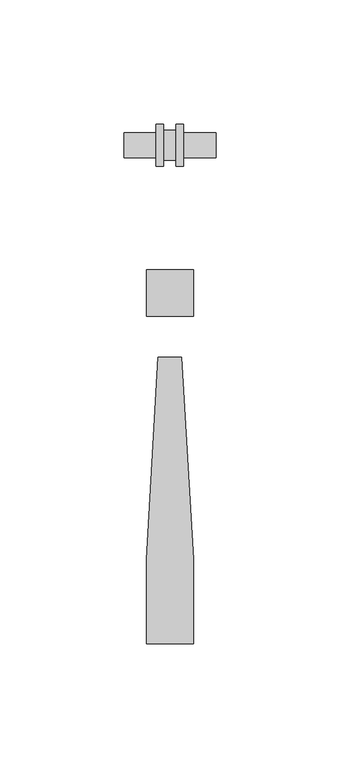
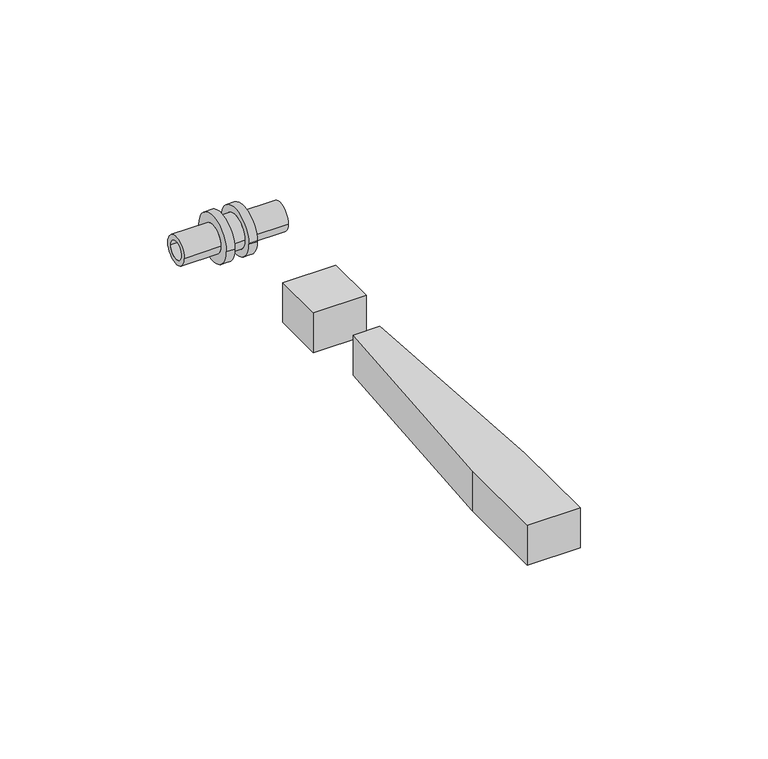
"""IFC4 building model written with IfcOpenShell, lengths in millimetres: pipe fitting geometry, RAUTITAN_Union_LX : RTI LX U DN."""

from ifc_helpers import new_model, si_unit, frame, origin, origin_with_axes, place, context, project, spatial, polyline, circle_curve, outline, extrude, source, transform, mapped, element, save
from ifc_brep_helpers import plane_surface, cylinder_surface, revolved_surface, advanced_brep


def pipe_fitting_a0515556(model_context):
    return source(origin(), model_context, "Body", "SolidModel", [
        advanced_brep(
        [(-18.5, 3.3, 0.0), (-18.5, -3.3, 0.0), (18.5, -3.3, 0.0), (18.5, 3.3, 0.0), (-5.5, 5.1, 0.0), (-5.5, -5.1, 0.0), (-18.5, -5.1, 0.0), (-18.5, 5.1, 0.0), (-2.5, 8.5, 0.0), (-2.5, -8.5, 0.0), (-5.5, -8.5, 0.0), (-5.5, 8.5, 0.0), (2.5, 6.0, 0.0), (2.5, -6.0, 0.0), (-2.5, -6.0, 0.0), (-2.5, 6.0, 0.0), (5.5, 8.5, 0.0), (5.5, -8.5, 0.0), (2.5, -8.5, 0.0), (2.5, 8.5, 0.0), (18.5, 5.1, 0.0), (18.5, -5.1, 0.0), (5.5, -5.1, 0.0), (5.5, 5.1, 0.0)],
        [
            (0, 1, circle_curve(frame((-18.5, 0.0, 0.0), z_axis=(-1.0, 0.0, 0.0), x_axis=(0.0, -1.0, 0.0)), 3.3)),
            (1, 2),
            (2, 3, circle_curve(frame((18.5, 0.0, 0.0), z_axis=(1.0, 0.0, 0.0), x_axis=(0.0, -1.0, 0.0)), 3.3)),
            (3, 0),
            (4, 5, circle_curve(frame((-5.5, 0.0, 0.0), z_axis=(-1.0, 0.0, 0.0), x_axis=(0.0, -1.0, 0.0)), 5.1)),
            (5, 6),
            (6, 7, circle_curve(frame((-18.5, 0.0, 0.0), z_axis=(1.0, 0.0, 0.0), x_axis=(0.0, -1.0, 0.0)), 5.1)),
            (7, 4),
            (8, 9, circle_curve(frame((-2.5, 0.0, 0.0), z_axis=(-1.0, 0.0, 0.0), x_axis=(0.0, -1.0, 0.0)), 8.5)),
            (9, 10),
            (10, 11, circle_curve(frame((-5.5, 0.0, 0.0), z_axis=(1.0, 0.0, 0.0), x_axis=(0.0, -1.0, 0.0)), 8.5)),
            (11, 8),
            (12, 13, circle_curve(frame((2.5, 0.0, 0.0), z_axis=(-1.0, 0.0, 0.0), x_axis=(0.0, -1.0, 0.0)), 6.0)),
            (13, 14),
            (14, 15, circle_curve(frame((-2.5, 0.0, 0.0), z_axis=(1.0, 0.0, 0.0), x_axis=(0.0, -1.0, 0.0)), 6.0)),
            (15, 12),
            (16, 17, circle_curve(frame((5.5, 0.0, 0.0), z_axis=(-1.0, 0.0, 0.0), x_axis=(0.0, -1.0, 0.0)), 8.5)),
            (17, 18),
            (18, 19, circle_curve(frame((2.5, 0.0, 0.0), z_axis=(1.0, 0.0, 0.0), x_axis=(0.0, -1.0, 0.0)), 8.5)),
            (19, 16),
            (20, 21, circle_curve(frame((18.5, 0.0, 0.0), z_axis=(-1.0, 0.0, 0.0), x_axis=(0.0, -1.0, 0.0)), 5.1)),
            (21, 22),
            (22, 23, circle_curve(frame((5.5, 0.0, 0.0), z_axis=(1.0, 0.0, 0.0), x_axis=(0.0, -1.0, 0.0)), 5.1)),
            (23, 20),
            (1, 0, circle_curve(frame((-18.5, 0.0, 0.0), z_axis=(-1.0, 0.0, 0.0), x_axis=(0.0, 1.0, 0.0)), 3.3)),
            (3, 2, circle_curve(frame((18.5, 0.0, 0.0), z_axis=(1.0, 0.0, 0.0), x_axis=(0.0, 1.0, 0.0)), 3.3)),
            (6, 7, circle_curve(frame((-18.5, 0.0, 0.0), z_axis=(-1.0, 0.0, 0.0), x_axis=(0.0, 1.0, 0.0)), 5.1)),
            (5, 4, circle_curve(frame((-5.5, 0.0, 0.0), z_axis=(-1.0, 0.0, 0.0), x_axis=(0.0, 1.0, 0.0)), 5.1)),
            (10, 11, circle_curve(frame((-5.5, 0.0, 0.0), z_axis=(-1.0, 0.0, 0.0), x_axis=(0.0, 1.0, 0.0)), 8.5)),
            (9, 8, circle_curve(frame((-2.5, 0.0, 0.0), z_axis=(-1.0, 0.0, 0.0), x_axis=(0.0, 1.0, 0.0)), 8.5)),
            (14, 15, circle_curve(frame((-2.5, 0.0, 0.0), z_axis=(-1.0, 0.0, 0.0), x_axis=(0.0, 1.0, 0.0)), 6.0)),
            (13, 12, circle_curve(frame((2.5, 0.0, 0.0), z_axis=(-1.0, 0.0, 0.0), x_axis=(0.0, 1.0, 0.0)), 6.0)),
            (18, 19, circle_curve(frame((2.5, 0.0, 0.0), z_axis=(-1.0, 0.0, 0.0), x_axis=(0.0, 1.0, 0.0)), 8.5)),
            (17, 16, circle_curve(frame((5.5, 0.0, 0.0), z_axis=(-1.0, 0.0, 0.0), x_axis=(0.0, 1.0, 0.0)), 8.5)),
            (22, 23, circle_curve(frame((5.5, 0.0, 0.0), z_axis=(-1.0, 0.0, 0.0), x_axis=(0.0, 1.0, 0.0)), 5.1)),
            (21, 20, circle_curve(frame((18.5, 0.0, 0.0), z_axis=(-1.0, 0.0, 0.0), x_axis=(0.0, 1.0, 0.0)), 5.1)),
        ],
        [
            revolved_surface(polyline([(18.5, -3.3, 0.0), (-18.5, -3.3, 0.0)]), (0.0, 0.0, 0.0), (1.0, 0.0, 0.0)),
            cylinder_surface(frame((0.0, 0.0, 0.0), z_axis=(1.0, 0.0, 0.0), x_axis=(0.0, -1.0, 0.0)), 5.1),
            cylinder_surface(frame((0.0, 0.0, 0.0), z_axis=(1.0, 0.0, 0.0), x_axis=(0.0, -1.0, 0.0)), 8.5),
            cylinder_surface(frame((0.0, 0.0, 0.0), z_axis=(1.0, 0.0, 0.0), x_axis=(0.0, -1.0, 0.0)), 6.0),
            revolved_surface(polyline([(18.5, 3.3, 0.0), (-18.5, 3.3, 0.0)]), (0.0, 0.0, 0.0), (1.0, 0.0, 0.0)),
            plane_surface(frame((-18.5, 0.0, 0.0), z_axis=(-1.0, 0.0, 0.0), x_axis=(0.0, 1.0, 0.0))),
            cylinder_surface(frame((0.0, 0.0, 0.0), z_axis=(1.0, 0.0, 0.0), x_axis=(0.0, 1.0, 0.0)), 5.1),
            plane_surface(frame((-5.5, 0.0, 0.0), z_axis=(-1.0, 0.0, 0.0), x_axis=(0.0, 1.0, 0.0))),
            cylinder_surface(frame((0.0, 0.0, 0.0), z_axis=(1.0, 0.0, 0.0), x_axis=(0.0, 1.0, 0.0)), 8.5),
            plane_surface(frame((-2.5, 0.0, 0.0), z_axis=(1.0, 0.0, 0.0), x_axis=(0.0, 1.0, 0.0))),
            cylinder_surface(frame((0.0, 0.0, 0.0), z_axis=(1.0, 0.0, 0.0), x_axis=(0.0, 1.0, 0.0)), 6.0),
            plane_surface(frame((2.5, 0.0, 0.0), z_axis=(-1.0, 0.0, 0.0), x_axis=(0.0, 1.0, 0.0))),
            plane_surface(frame((5.5, 0.0, 0.0), z_axis=(1.0, 0.0, 0.0), x_axis=(0.0, 1.0, 0.0))),
            plane_surface(frame((18.5, 0.0, 0.0), z_axis=(1.0, 0.0, 0.0), x_axis=(0.0, 1.0, 0.0))),
        ],
        [
            (0, [[1, 2, 3, 4]]),
            (1, [[5, 6, 7, 8]]),
            (2, [[9, 10, 11, 12]]),
            (3, [[13, 14, 15, 16]]),
            (2, [[17, 18, 19, 20]]),
            (1, [[21, 22, 23, 24]]),
            (4, [[25, -4, 26, -2]]),
            (5, [[27, -7], [-25, -1]]),
            (6, [[28, -8, -27, -6]]),
            (7, [[29, -11], [-28, -5]]),
            (8, [[30, -12, -29, -10]]),
            (9, [[-30, -9], [31, -15]]),
            (10, [[32, -16, -31, -14]]),
            (11, [[33, -19], [-32, -13]]),
            (8, [[34, -20, -33, -18]]),
            (12, [[-34, -17], [35, -23]]),
            (6, [[36, -24, -35, -22]]),
            (13, [[-36, -21], [-26, -3]]),
        ],
    ),
        extrude(outline(polyline([(4.7088895, -85.3166715), (9.4177791, -166.6553807), (9.4177791, -200.6844652), (-9.4177791, -200.6844652), (-9.4177791, -166.6553807), (-4.7088895, -85.3166715), (4.7088895, -85.3166715)])), origin_with_axes(), (0.0, 0.0, 1.0), 15.0),
        extrude(outline(polyline([(9.4177791, -50.0), (9.4177791, -68.8355582), (-9.4177791, -68.8355582), (-9.4177791, -50.0), (9.4177791, -50.0)])), origin_with_axes(), (0.0, 0.0, 1.0), 15.0),
    ])


if __name__ == "__main__":
    model = new_model("IFC4")
    model_context = context("Model", 3, world=origin())
    ifc_project = project(units=[si_unit("LENGTHUNIT", "METRE", prefix="MILLI")], contexts=[model_context])
    site = spatial("IfcSite", under=ifc_project)
    building = spatial("IfcBuilding", under=site)
    placement = place(None, origin())
    pipe_fitting_shape = pipe_fitting_a0515556(model_context)
    element("IfcPipeFitting", 1, ObjectType="RAUTITAN_Union_LX : RTI LX U DN", at=placement, inside=building, context=model_context, shape_type="MappedRepresentation", body=[
        mapped(pipe_fitting_shape, transform((0.0, 0.0, 0.0), x_axis=(1.0, 0.0, 0.0), y_axis=(0.0, 1.0, 0.0), z_axis=(0.0, 0.0, 1.0))),
    ])
    save(model, "model.ifc")
